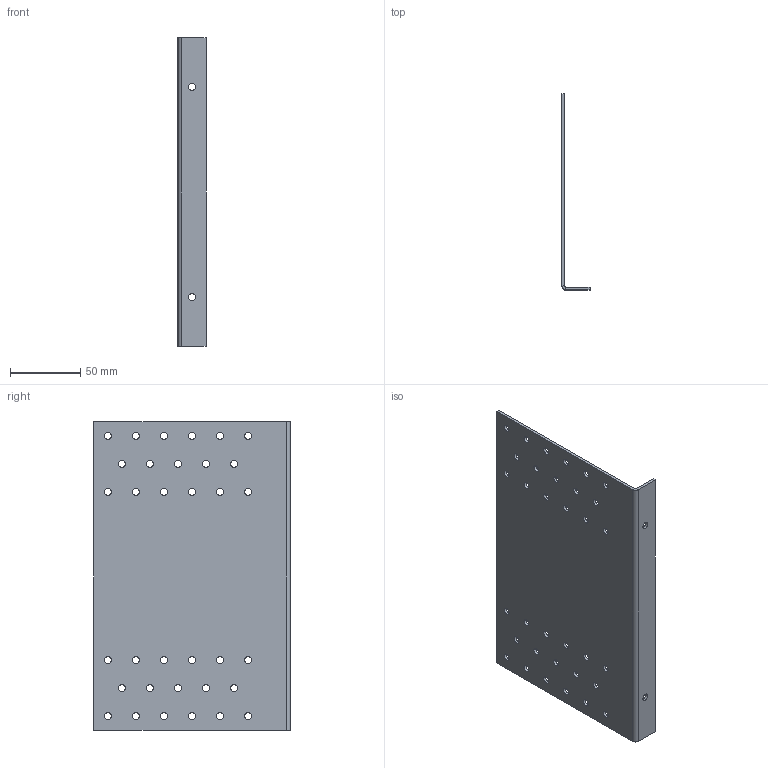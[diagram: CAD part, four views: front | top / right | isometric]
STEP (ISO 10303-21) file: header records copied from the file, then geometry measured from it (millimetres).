
FILE_DESCRIPTION (( 'STEP AP203' ), '1' );
FILE_NAME ('214.STEP', '2020-04-17T13:22:56', ( '' ), ( '' ), 'SwSTEP 2.0', 'SolidWorks 2013', '' );
FILE_SCHEMA (( 'CONFIG_CONTROL_DESIGN' ));
Length unit declared in the file: millimetre
Products named in the file (1): 214
Bounding box: 20 x 140 x 220 mm (x, y, z)
Volume: 67779.2 mm3; surface area: 70419.2 mm2
Topology: 1 solids, 1 shells, 86 faces, 244 edges, 160 vertices
Faces by surface type: cylinder 74, plane 12
Entity records: 3093 total; most frequent: DIRECTION 566, CARTESIAN_POINT 491, ORIENTED_EDGE 488, EDGE_CURVE 244, AXIS2_PLACEMENT_3D 235, VERTEX_POINT 160, EDGE_LOOP 158, CIRCLE 148
